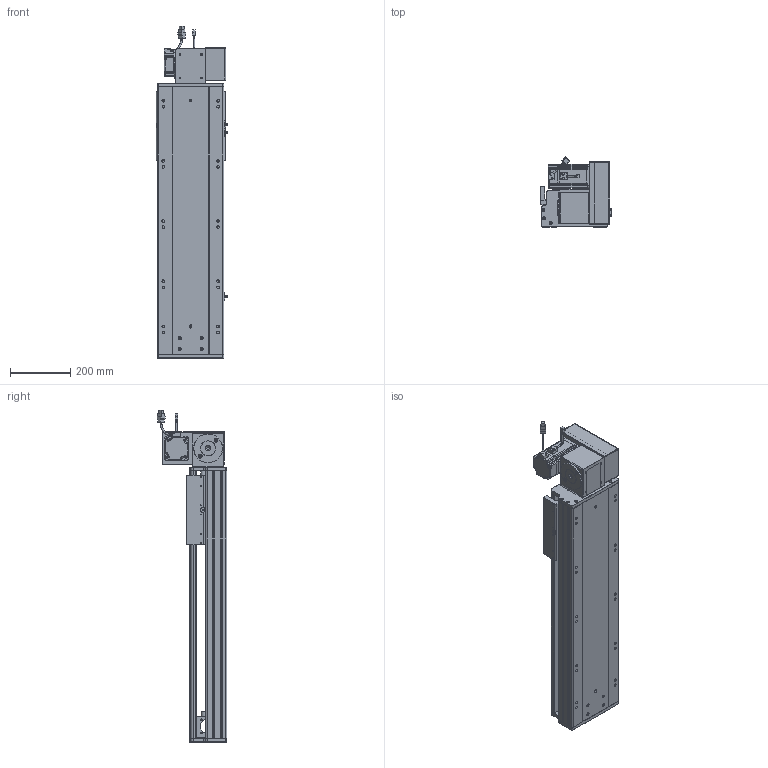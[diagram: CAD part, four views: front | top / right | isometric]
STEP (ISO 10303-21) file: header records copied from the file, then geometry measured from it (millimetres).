
FILE_DESCRIPTION (( 'STEP AP203' ), '1' );
FILE_NAME ('RY220-T-300-UR.SLDASM_550.step', '2022-07-25T08:42:45', ( '' ), ( '' ), 'SwSTEP 2.0', 'SolidWorks 2016', '' );
FILE_SCHEMA (( 'CONFIG_CONTROL_DESIGN' ));
Length unit declared in the file: millimetre
Products named in the file (14): RY220-T菁釱-300_550; 怢湛750W_ECMA-CX0807ES; RY220-T-湍謫欶(鍼踢); RY220-俋离672覜茼んえ; RY220圉猾敕々湍臏賑輸; RY220-T-300-UR.SLDASM_550; 110A-T-肮祭謫釱傷裔; RY220-同步轮副支撑座6304×2; 覜茼ん672; RY220翋肮祭謫裔啣; RY220-T-300-奻裔啣_550; 滅袉蝶18-15; RY220翋肮祭謫釱; RY220-T-蛌殏萇儂假蚾啣(750W)
Assembly tree (18 placements, depth 2):
  RY220-T-300-UR.SLDASM_550
    RY220-T菁釱-300_550
    RY220翋肮祭謫釱
    覜茼ん672  x3
    RY220圉猾敕々湍臏賑輸
    RY220-T-300-奻裔啣_550
    RY220-俋离672覜茼んえ
    滅袉蝶18-15  x3
    RY220翋肮祭謫裔啣  x2
    110A-T-肮祭謫釱傷裔
    怢湛750W_ECMA-CX0807ES
    RY220-T-湍謫欶(鍼踢)
    RY220-T-蛌殏萇儂假蚾啣(750W)
    RY220-同步轮副支撑座6304×2
Bounding box: 238.7 x 231.74 x 1103.27 mm (x, y, z)
Volume: 9348455 mm3; surface area: 2630903.5 mm2
Topology: 19 solids, 19 shells, 2532 faces, 6979 edges, 4446 vertices
Faces by surface type: cylinder 1164, plane 1069, cone 217, bspline 56, sphere 16, torus 10
Entity records: 84147 total; most frequent: CARTESIAN_POINT 24089, ORIENTED_EDGE 12506, DIRECTION 11732, EDGE_CURVE 6253, AXIS2_PLACEMENT_3D 4118, VERTEX_POINT 4070, LINE 3496, VECTOR 3496
